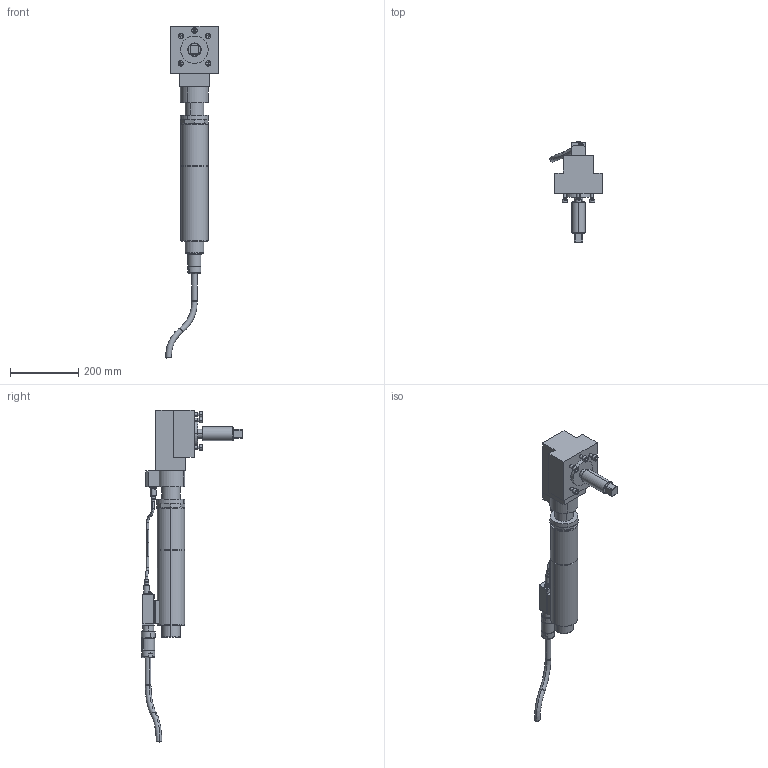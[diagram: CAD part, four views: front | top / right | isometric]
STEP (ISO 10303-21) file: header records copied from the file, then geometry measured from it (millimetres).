
FILE_DESCRIPTION(('CATIA V5 STEP'),'2;1');
FILE_NAME('O:\3D-Schrauber\stp\7920687_ECR334_DWR450_AW3325_AllCATPart.stp','2010-05-05T11:17:34+00:00',('none'),('none'),'CATIA Version 5 Release 19 SP 3 (IN-10)','CATIA V5 STEP AP214','none');
FILE_SCHEMA(('AUTOMOTIVE_DESIGN { 1 0 10303 214 1 1 1 1 }'));
Length unit declared in the file: millimetre
Products named in the file (1): 7920687_ECR334_DWR450_AW3325_AllCATPart
Bounding box: 153.32 x 296.48 x 971.66 mm (x, y, z)
Volume: 5088123.5 mm3; surface area: 386455.6 mm2
Topology: 19 solids, 19 shells, 462 faces, 1015 edges, 642 vertices
Faces by surface type: plane 193, cylinder 163, cone 62, torus 44
Entity records: 12165 total; most frequent: CARTESIAN_POINT 2454, ORIENTED_EDGE 2030, DIRECTION 1663, EDGE_CURVE 1015, AXIS2_PLACEMENT_3D 849, VERTEX_POINT 642, EDGE_LOOP 513, CIRCLE 496
